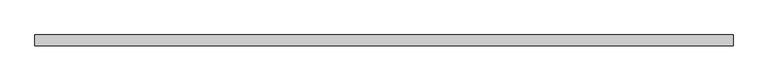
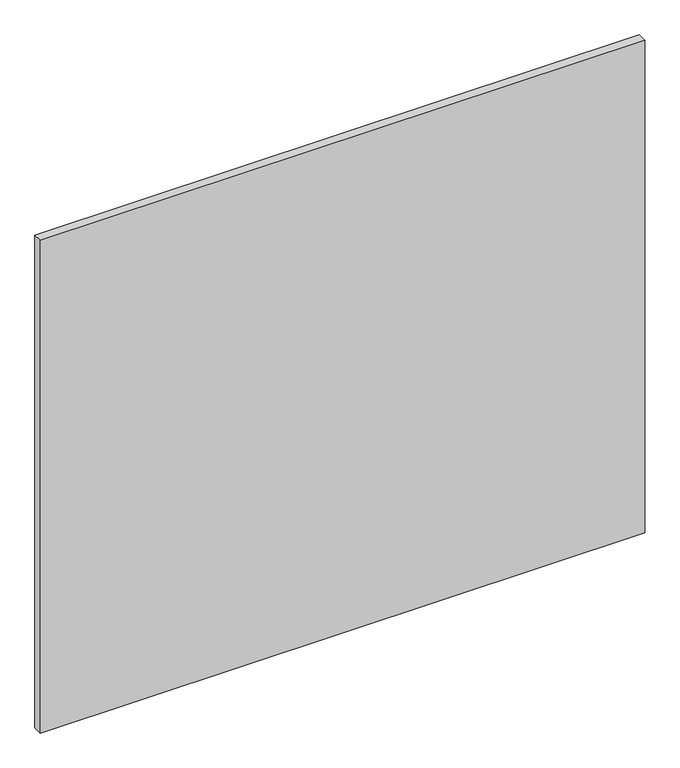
"""IFC4 building model written with IfcOpenShell, lengths in millimetres: plate geometry, Системная панель : ADSK_Cтеклопакет_25 мм."""

from ifc_helpers import new_model, si_unit, origin, origin_with_axes, place, context, project, spatial, polyline, outline, extrude, source, transform, mapped, element, save


def plate_ecf12d1f(model_context):
    return source(origin(), model_context, "Body", "SweptSolid", [
        extrude(outline(polyline([(812.4684619, -12.5), (-812.4684619, -12.5), (-812.4684619, 12.5), (812.4684619, 12.5), (812.4684619, -12.5)])), origin_with_axes(), (0.0, 0.0, 1.0), 1400.0),
    ])


if __name__ == "__main__":
    model = new_model("IFC4")
    model_context = context("Model", 3, world=origin())
    ifc_project = project(units=[si_unit("LENGTHUNIT", "METRE", prefix="MILLI")], contexts=[model_context])
    site = spatial("IfcSite", under=ifc_project)
    building = spatial("IfcBuilding", under=site)
    placement = place(None, origin())
    plate_shape = plate_ecf12d1f(model_context)
    element("IfcPlate", 1, ObjectType="Системная панель : ADSK_Cтеклопакет_25 мм", at=placement, inside=building, context=model_context, shape_type="MappedRepresentation", body=[
        mapped(plate_shape, transform((0.0, 0.0, 0.0), x_axis=(1.0, 0.0, 0.0), y_axis=(0.0, 1.0, 0.0), z_axis=(0.0, 0.0, 1.0))),
    ])
    save(model, "model.ifc")
